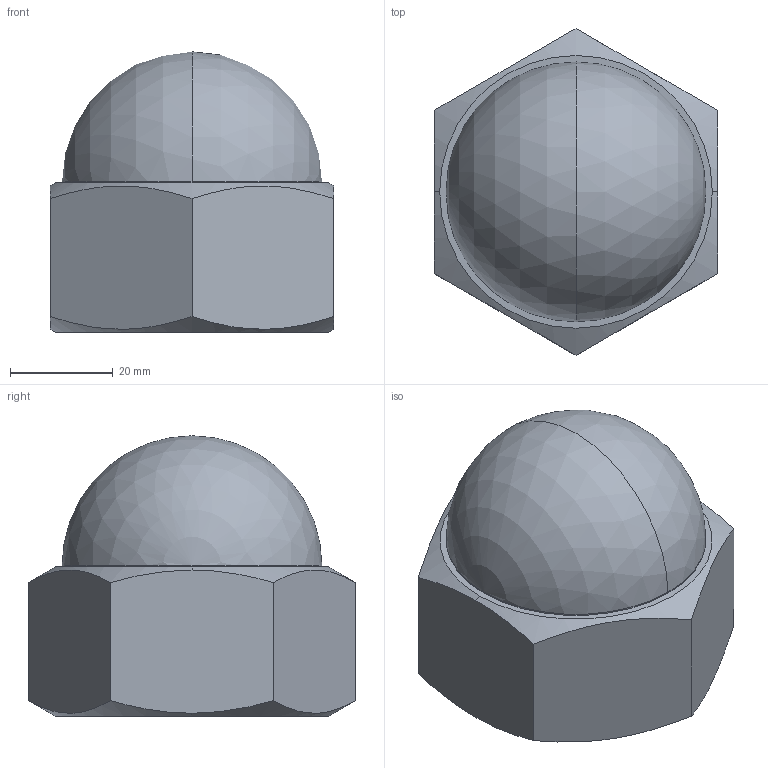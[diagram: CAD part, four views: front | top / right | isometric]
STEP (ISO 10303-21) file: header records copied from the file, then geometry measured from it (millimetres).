
FILE_DESCRIPTION (( 'STEP AP214' ), '1' );
FILE_NAME ('Domed-cap-nut-3-2-M36xP3-fine-thread-screw.STEP', '2024-05-06T00:46:39', ( 'ASIS User' ), ( 'ASIS User' ), 'SwSTEP 2.0', 'SolidWorks 2023', '' );
FILE_SCHEMA (( 'AUTOMOTIVE_DESIGN' ));
Length unit declared in the file: millimetre
Products named in the file (1): Domed-cap-nut-3-2-M36xP3-fine-thread-screw
Bounding box: 55 x 63.51 x 54.5 mm (x, y, z)
Volume: 55614.2 mm3; surface area: 20637.6 mm2
Topology: 1 solids, 1 shells, 47 faces, 131 edges, 85 vertices
Faces by surface type: cylinder 23, plane 9, cone 8, sphere 4, bspline 3
Entity records: 6808 total; most frequent: CARTESIAN_POINT 5771, ORIENTED_EDGE 246, DIRECTION 168, EDGE_CURVE 123, VERTEX_POINT 81, AXIS2_PLACEMENT_3D 67, EDGE_LOOP 50, FACE_OUTER_BOUND 47
